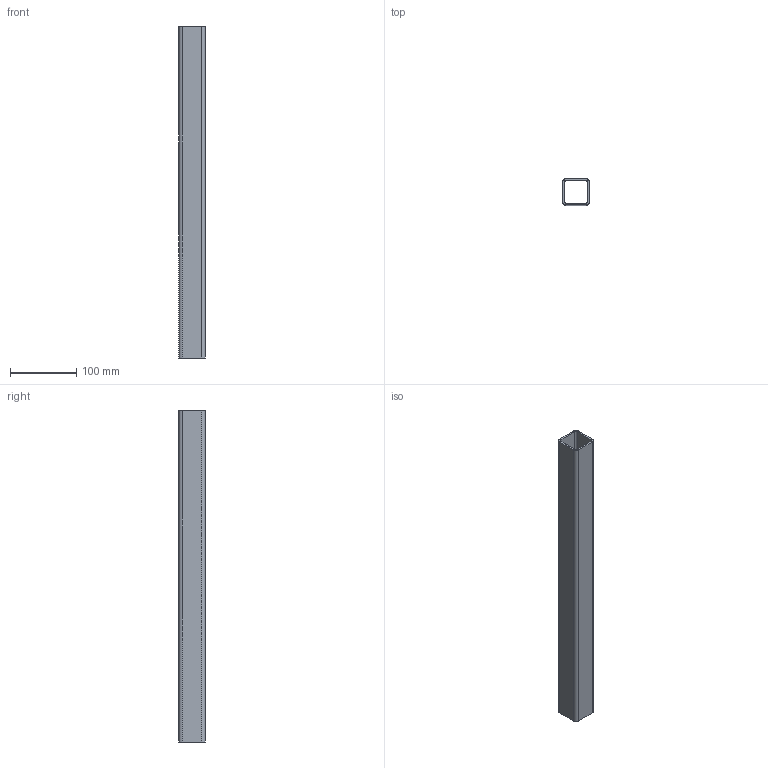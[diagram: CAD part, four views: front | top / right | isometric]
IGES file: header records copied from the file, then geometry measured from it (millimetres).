
Start section: SolidWorks IGES file using analytic representation for surfaces
Global section: file name: C:\Documents and Settings\Pc\Escritorio\Modelos 3D\Capítulo 3 (Pandeo)\PRACTICAS PROPUESTAS\tubo cuadrado.IGS; native system: SolidWorks 2010; preprocessor: SolidWorks 2010; author: Pc; date: 100623.113346; units: millimetre
Bounding box: 40 x 40 x 500 mm (x, y, z)
Surface area: 143647.5 mm2 (no closed solid volume)
Topology: 0 solids, 0 shells, 18 faces, 208 edges, 208 vertices
Faces by surface type: bspline 10, revolution 8
